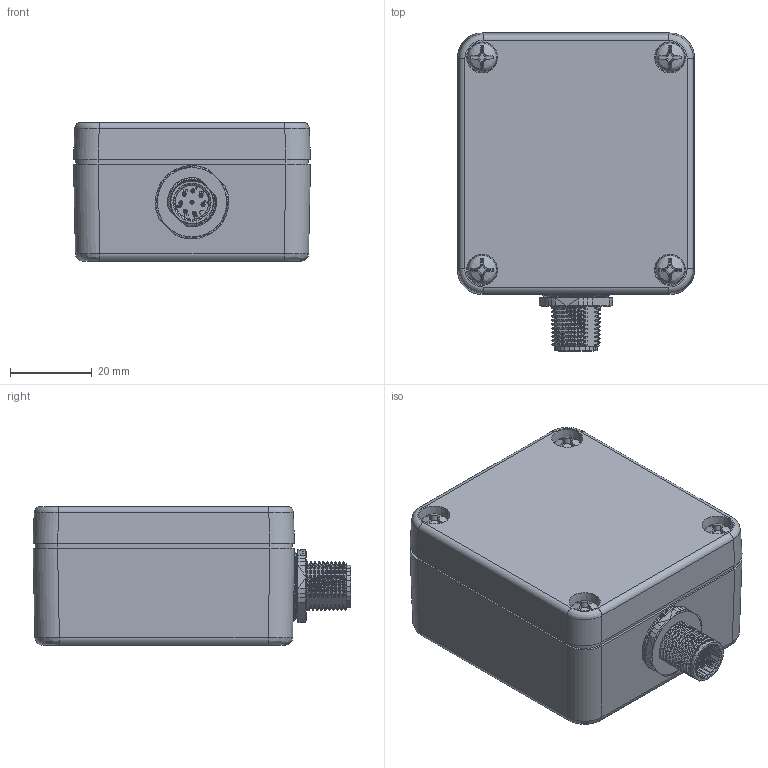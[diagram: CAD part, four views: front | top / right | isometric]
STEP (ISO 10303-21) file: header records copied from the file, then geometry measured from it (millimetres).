
FILE_DESCRIPTION(/* description */ (''),/* implementation_level */ '2;1');
FILE_NAME(/* name */ 'Gehuse HNSC-D.step',/* time_stamp */ '2024-10-09T12:22:47+02:00',/* author */ (''),/* organization */ (''),/* preprocessor_version */ 'ST-DEVELOPER v20',/* originating_system */ 'Autodesk Translation Framework v13.20.0.188',/* authorisation */ '');
FILE_SCHEMA (('AUTOMOTIVE_DESIGN { 1 0 10303 214 3 1 1 }'));
Products named in the file (4): HNSC-D; Bobla Gehause A-101 v12; A101_OT_3Dsym; SHR Z M4x20x7 ÄHNL_DIN EN ISO 7045 OG_3Dsym
Assembly tree (6 placements, depth 3):
  HNSC-D
    Bobla Gehause A-101 v12
      A101_OT_3Dsym
      SHR Z M4x20x7 ÄHNL_DIN EN ISO 7045 OG_3Dsym  x4
Bounding box: 58 x 77.82 x 34 mm (x, y, z)
Volume: 93969.2 mm3; surface area: 35730.4 mm2
Topology: 6 solids, 19 shells, 10804 faces, 18878 edges, 8172 vertices
Faces by surface type: plane 10539, cylinder 120, bspline 61, cone 56, torus 28
Full cylindrical faces by diameter (mm): 2.87 x4, 3.2 x4, 4 x4, 4.5 x2, 4.8 x2, 7 x4, 8.6 x2
Entity records: 235587 total; most frequent: CARTESIAN_POINT 40276, DIRECTION 40251, ORIENTED_EDGE 37294, EDGE_CURVE 18647, LINE 18121, VECTOR 18121, AXIS2_PLACEMENT_3D 11065, EDGE_LOOP 10823
